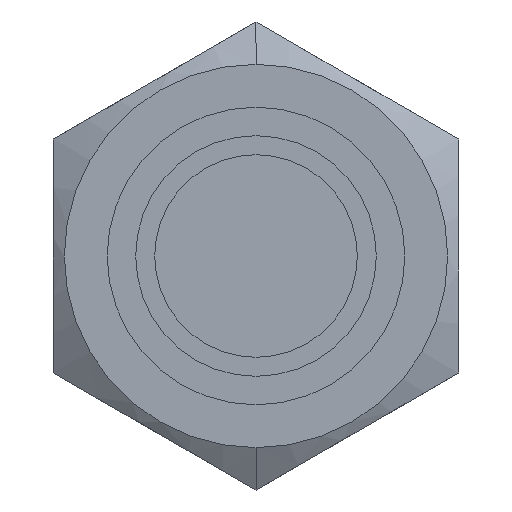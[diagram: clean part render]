
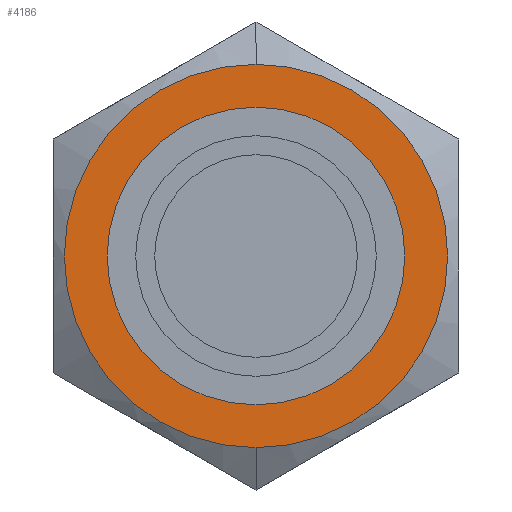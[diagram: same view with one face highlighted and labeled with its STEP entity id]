
A CAD part, left-side view. The second image highlights one B-rep face of the part: STEP entity #4186.
In plain terms, the highlighted planar face has unit normal (-1, 0, 0).
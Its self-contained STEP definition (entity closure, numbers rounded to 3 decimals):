
#124 = EDGE_LOOP ( 'NONE', ( #2372, #3505 ) ) ;
#333 = CARTESIAN_POINT ( 'NONE',  ( -31., 0., 0. ) ) ;
#545 = AXIS2_PLACEMENT_3D ( 'NONE', #4314, #1374, #4814 ) ;
#631 = CARTESIAN_POINT ( 'NONE',  ( -31., 0., 15.134 ) ) ;
#731 = DIRECTION ( 'NONE',  ( -1., 0., 0. ) ) ;
#738 = CIRCLE ( 'NONE', #2261, 11.75 ) ;
#843 = DIRECTION ( 'NONE',  ( 0., 0., 1. ) ) ;
#954 = CARTESIAN_POINT ( 'NONE',  ( -31., 0., -15.134 ) ) ;
#969 = DIRECTION ( 'NONE',  ( -1., 0., 0. ) ) ;
#1374 = DIRECTION ( 'NONE',  ( -1., 0., 0. ) ) ;
#1859 = AXIS2_PLACEMENT_3D ( 'NONE', #4509, #5010, #2048 ) ;
#2048 = DIRECTION ( 'NONE',  ( 0., 0., -1. ) ) ;
#2196 = ORIENTED_EDGE ( 'NONE', *, *, #2572, .T. ) ;
#2261 = AXIS2_PLACEMENT_3D ( 'NONE', #333, #3789, #843 ) ;
#2285 = EDGE_LOOP ( 'NONE', ( #2196, #5993 ) ) ;
#2372 = ORIENTED_EDGE ( 'NONE', *, *, #4662, .F. ) ;
#2572 = EDGE_CURVE ( 'NONE', #5811, #5482, #5676, .T. ) ;
#2948 = CIRCLE ( 'NONE', #4006, 11.75 ) ;
#3127 = CARTESIAN_POINT ( 'NONE',  ( -31., 0., 11.75 ) ) ;
#3153 = AXIS2_PLACEMENT_3D ( 'NONE', #3673, #731, #4183 ) ;
#3221 = FACE_OUTER_BOUND ( 'NONE', #2285, .T. ) ;
#3498 = PLANE ( 'NONE',  #1859 ) ;
#3505 = ORIENTED_EDGE ( 'NONE', *, *, #6105, .F. ) ;
#3629 = VERTEX_POINT ( 'NONE', #6114 ) ;
#3642 = VERTEX_POINT ( 'NONE', #3127 ) ;
#3673 = CARTESIAN_POINT ( 'NONE',  ( -31., 0., 0. ) ) ;
#3755 = EDGE_CURVE ( 'NONE', #5482, #5811, #5959, .T. ) ;
#3789 = DIRECTION ( 'NONE',  ( -1., 0., 0. ) ) ;
#3924 = CARTESIAN_POINT ( 'NONE',  ( -31., 0., 0. ) ) ;
#4006 = AXIS2_PLACEMENT_3D ( 'NONE', #3924, #969, #4410 ) ;
#4183 = DIRECTION ( 'NONE',  ( 0., 0., -1. ) ) ;
#4186 = ADVANCED_FACE ( 'NONE', ( #5888, #3221 ), #3498, .F. ) ;
#4314 = CARTESIAN_POINT ( 'NONE',  ( -31., 0., 0. ) ) ;
#4410 = DIRECTION ( 'NONE',  ( 0., 0., 1. ) ) ;
#4509 = CARTESIAN_POINT ( 'NONE',  ( -31., 0., 0. ) ) ;
#4662 = EDGE_CURVE ( 'NONE', #3642, #3629, #2948, .T. ) ;
#4814 = DIRECTION ( 'NONE',  ( 0., 0., -1. ) ) ;
#5010 = DIRECTION ( 'NONE',  ( 1., 0., 0. ) ) ;
#5482 = VERTEX_POINT ( 'NONE', #631 ) ;
#5676 = CIRCLE ( 'NONE', #545, 15.134 ) ;
#5811 = VERTEX_POINT ( 'NONE', #954 ) ;
#5888 = FACE_BOUND ( 'NONE', #124, .T. ) ;
#5959 = CIRCLE ( 'NONE', #3153, 15.134 ) ;
#5993 = ORIENTED_EDGE ( 'NONE', *, *, #3755, .T. ) ;
#6105 = EDGE_CURVE ( 'NONE', #3629, #3642, #738, .T. ) ;
#6114 = CARTESIAN_POINT ( 'NONE',  ( -31., 0., -11.75 ) ) ;
